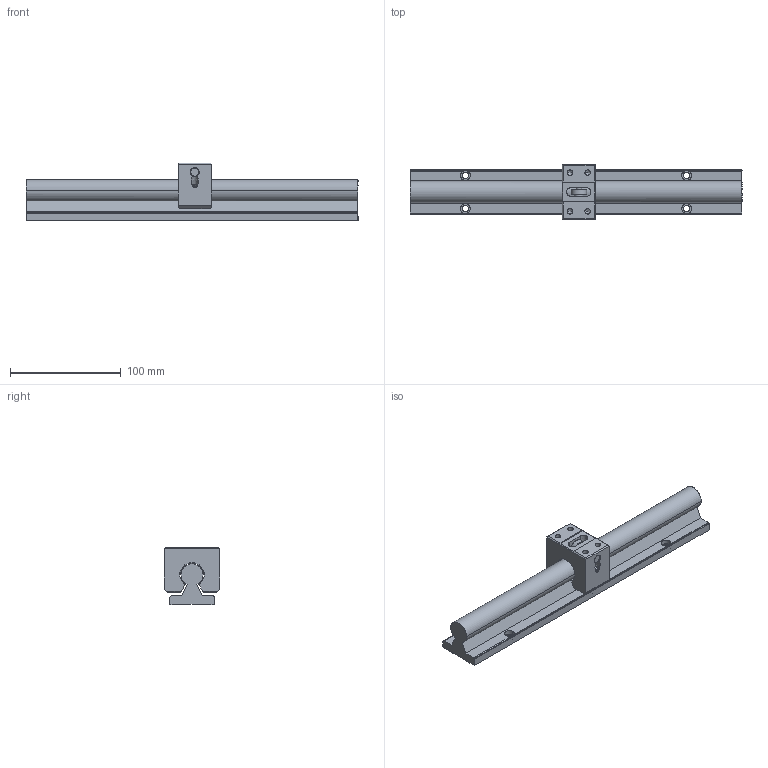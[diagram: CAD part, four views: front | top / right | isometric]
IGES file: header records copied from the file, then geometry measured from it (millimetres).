
Global section: file name: No Iges File Name specified; native system: AutoDesk Inventor R10; preprocessor: AutoDesk Inventor Iges Exporter R10; author: No Author specified; organization: No Organization specified; date: 20101222.160434; units: millimetre
Bounding box: 300 x 50 x 52 mm (x, y, z)
Surface area: 61870.7 mm2 (no closed solid volume)
Topology: 0 solids, 0 shells, 212 faces, 1538 edges, 1524 vertices
Faces by surface type: bspline 212
